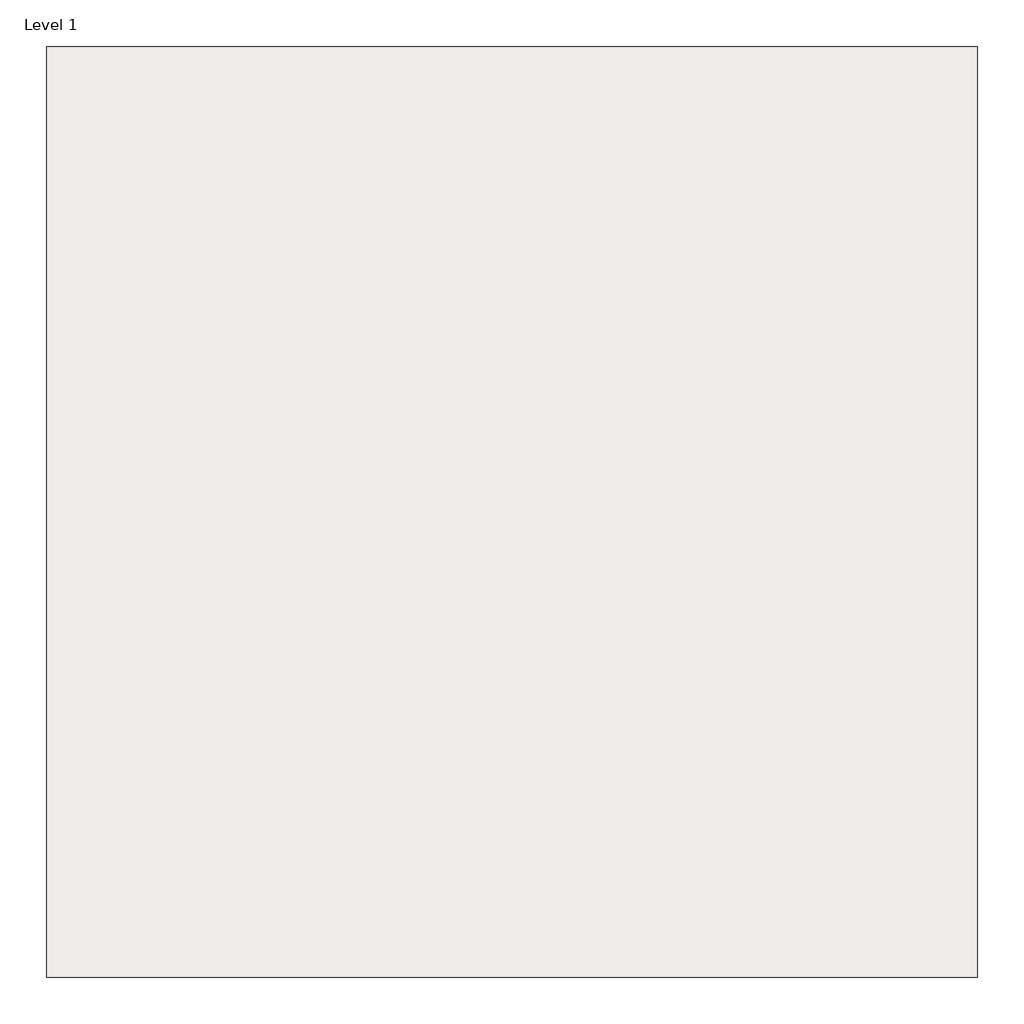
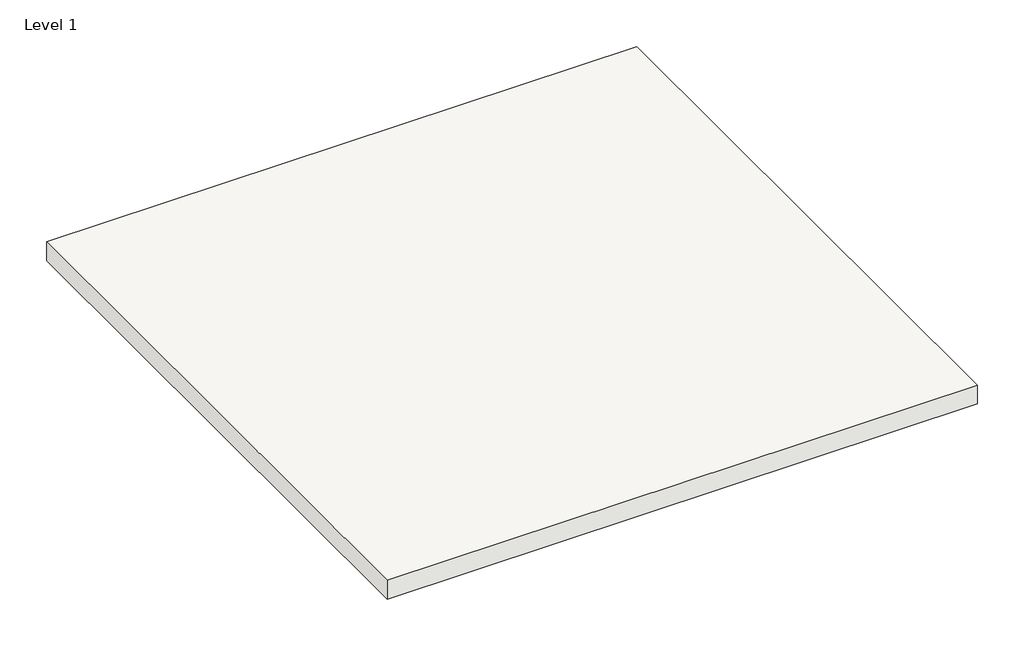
# One storey: 1 slab.
"""IFC4 building model written with IfcOpenShell, lengths in millimetres."""

from ifc_helpers import new_model, si_unit, frame, origin, place, context, project, spatial, polyline, outline, extrude, element, save

model = new_model("IFC4")

# Units and contexts
model_context = context("Model", 3, world=origin())
ifc_project = project(units=[si_unit("LENGTHUNIT", "METRE", prefix="MILLI")], contexts=[model_context])

# Site, building, storey
site = spatial("IfcSite", under=ifc_project)
building = spatial("IfcBuilding", under=site)
storey = spatial("IfcBuildingStorey", under=building, Name="Level 1", Elevation=4000.0)

# Slab
placement = place(None, origin())
element("IfcSlab", 1, ObjectType="NBS_IKOPLC_ReinforcedBitumenMembraneInvertedRoofCoveringSystems_IKOPermatecAntiRoot", at=placement, inside=storey, context=model_context, shape_type="SweptSolid", body=[
    extrude(outline(polyline([(0.0, -3700.0), (2500.0, -3700.0), (2500.0, -6200.0), (0.0, -6200.0), (0.0, -3700.0)])), frame((0.0, 0.0, 4000.0), z_axis=(0.0, 0.0, 1.0), x_axis=(1.0, 0.0, 0.0)), (0.0, 0.0, 1.0), 83.4),
])

save(model, "model.ifc")
